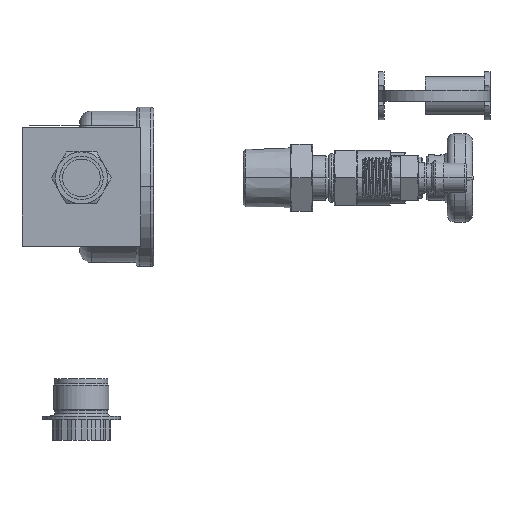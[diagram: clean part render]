
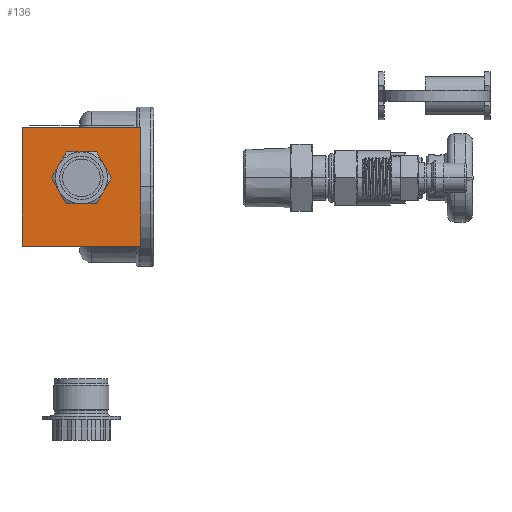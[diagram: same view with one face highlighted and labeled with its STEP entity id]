
A CAD part, front view. The second image highlights one B-rep face of the part: STEP entity #136.
In plain terms, the highlighted planar face has unit normal (0, -1, 0).
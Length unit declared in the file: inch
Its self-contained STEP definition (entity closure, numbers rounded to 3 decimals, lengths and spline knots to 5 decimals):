
#5=DIRECTION('',(1.,0.,0.));
#6=VECTOR('',#5,2.);
#7=CARTESIAN_POINT('',(1.92029,1.92029,0.77029));
#8=LINE('',#7,#6);
#25=DIRECTION('',(0.,0.,1.));
#26=VECTOR('',#25,2.);
#27=CARTESIAN_POINT('',(3.92029,1.92029,0.77029));
#28=LINE('',#27,#26);
#29=DIRECTION('',(0.,0.,1.));
#30=VECTOR('',#29,2.);
#31=CARTESIAN_POINT('',(1.92029,1.92029,0.77029));
#32=LINE('',#31,#30);
#45=DIRECTION('',(1.,0.,0.));
#46=VECTOR('',#45,2.);
#47=CARTESIAN_POINT('',(1.92029,1.92029,2.77029));
#48=LINE('',#47,#46);
#50=CARTESIAN_POINT('',(1.92029,1.92029,0.77029));
#52=VERTEX_POINT('',#50);
#53=CARTESIAN_POINT('',(3.92029,1.92029,0.77029));
#54=VERTEX_POINT('',#53);
#58=CARTESIAN_POINT('',(1.92029,1.92029,2.77029));
#60=VERTEX_POINT('',#58);
#61=CARTESIAN_POINT('',(3.92029,1.92029,2.77029));
#62=VERTEX_POINT('',#61);
#124=CARTESIAN_POINT('',(1.92029,1.92029,0.77029));
#125=DIRECTION('',(0.,-1.,0.));
#126=DIRECTION('',(1.,0.,0.));
#127=AXIS2_PLACEMENT_3D('',#124,#125,#126);
#128=PLANE('',#127);
#129=ORIENTED_EDGE('',*,*,#72,.F.);
#130=ORIENTED_EDGE('',*,*,#91,.T.);
#132=ORIENTED_EDGE('',*,*,#131,.T.);
#133=ORIENTED_EDGE('',*,*,#116,.F.);
#134=EDGE_LOOP('',(#129,#130,#132,#133));
#135=FACE_OUTER_BOUND('',#134,.F.);
#136=ADVANCED_FACE('',(#135),#128,.T.);
#72=EDGE_CURVE('',#52,#54,#8,.T.);
#91=EDGE_CURVE('',#52,#60,#32,.T.);
#116=EDGE_CURVE('',#54,#62,#28,.T.);
#131=EDGE_CURVE('',#60,#62,#48,.T.);
